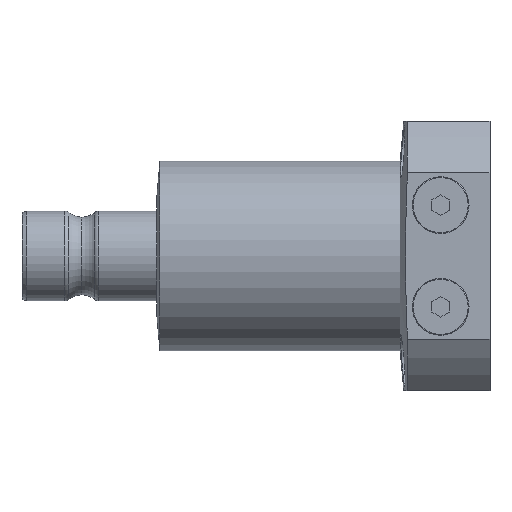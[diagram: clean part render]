
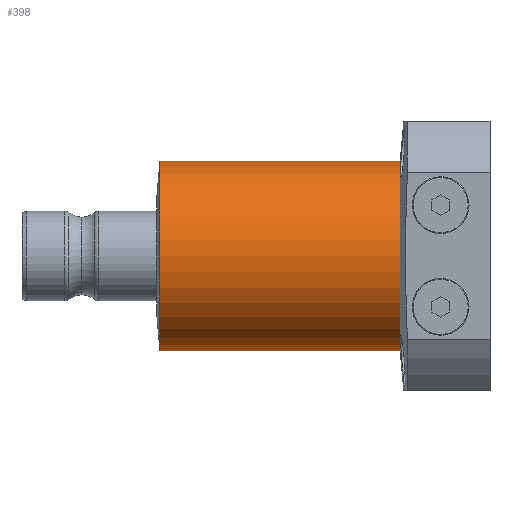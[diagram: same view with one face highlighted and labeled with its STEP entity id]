
A CAD part, left-side view. The second image highlights one B-rep face of the part: STEP entity #398.
In plain terms, the highlighted cylindrical face has radius 31.75 mm (diameter 63.5 mm), a partial arc.
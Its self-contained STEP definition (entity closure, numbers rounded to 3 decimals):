
#75 = DIRECTION ( 'NONE',  ( 0., 0., -1. ) ) ;
#102 = CARTESIAN_POINT ( 'NONE',  ( 0., 110.385, -31.75 ) ) ;
#398 = ADVANCED_FACE ( 'NONE', ( #1202 ), #1105, .T. ) ;
#416 = ORIENTED_EDGE ( 'NONE', *, *, #3962, .T. ) ;
#906 = CARTESIAN_POINT ( 'NONE',  ( 0., 30., 31.75 ) ) ;
#967 = AXIS2_PLACEMENT_3D ( 'NONE', #4038, #2054, #75 ) ;
#1028 = LINE ( 'NONE', #3460, #2807 ) ;
#1105 = CYLINDRICAL_SURFACE ( 'NONE', #3873, 31.75 ) ;
#1110 = CARTESIAN_POINT ( 'NONE',  ( 0., 30., 0. ) ) ;
#1202 = FACE_OUTER_BOUND ( 'NONE', #3426, .T. ) ;
#1387 = EDGE_CURVE ( 'NONE', #4040, #1609, #1523, .T. ) ;
#1443 = DIRECTION ( 'NONE',  ( 0., 0., -1. ) ) ;
#1523 = LINE ( 'NONE', #1779, #3963 ) ;
#1593 = DIRECTION ( 'NONE',  ( 0., 0., -1. ) ) ;
#1609 = VERTEX_POINT ( 'NONE', #906 ) ;
#1779 = CARTESIAN_POINT ( 'NONE',  ( 0., 0., 31.75 ) ) ;
#1874 = EDGE_CURVE ( 'NONE', #1609, #2357, #3018, .T. ) ;
#1952 = EDGE_CURVE ( 'NONE', #3835, #2357, #1028, .T. ) ;
#2054 = DIRECTION ( 'NONE',  ( 0., -1., 0. ) ) ;
#2357 = VERTEX_POINT ( 'NONE', #3530 ) ;
#2378 = ORIENTED_EDGE ( 'NONE', *, *, #1874, .F. ) ;
#2481 = CARTESIAN_POINT ( 'NONE',  ( 0., 110.385, 31.75 ) ) ;
#2803 = ORIENTED_EDGE ( 'NONE', *, *, #1952, .T. ) ;
#2807 = VECTOR ( 'NONE', #3781, 1000. ) ;
#2897 = AXIS2_PLACEMENT_3D ( 'NONE', #1110, #3429, #1443 ) ;
#3018 = CIRCLE ( 'NONE', #2897, 31.75 ) ;
#3188 = ORIENTED_EDGE ( 'NONE', *, *, #1387, .F. ) ;
#3426 = EDGE_LOOP ( 'NONE', ( #3188, #416, #2803, #2378 ) ) ;
#3429 = DIRECTION ( 'NONE',  ( 0., -1., 0. ) ) ;
#3460 = CARTESIAN_POINT ( 'NONE',  ( 0., 0., -31.75 ) ) ;
#3530 = CARTESIAN_POINT ( 'NONE',  ( 0., 30., -31.75 ) ) ;
#3581 = DIRECTION ( 'NONE',  ( 0., -1., 0. ) ) ;
#3761 = DIRECTION ( 'NONE',  ( 0., -1., 0. ) ) ;
#3781 = DIRECTION ( 'NONE',  ( 0., -1., 0. ) ) ;
#3835 = VERTEX_POINT ( 'NONE', #102 ) ;
#3873 = AXIS2_PLACEMENT_3D ( 'NONE', #3893, #3581, #1593 ) ;
#3893 = CARTESIAN_POINT ( 'NONE',  ( 0., 0., 0. ) ) ;
#3962 = EDGE_CURVE ( 'NONE', #4040, #3835, #4105, .T. ) ;
#3963 = VECTOR ( 'NONE', #3761, 1000. ) ;
#4038 = CARTESIAN_POINT ( 'NONE',  ( 0., 110.385, 0. ) ) ;
#4040 = VERTEX_POINT ( 'NONE', #2481 ) ;
#4105 = CIRCLE ( 'NONE', #967, 31.75 ) ;
